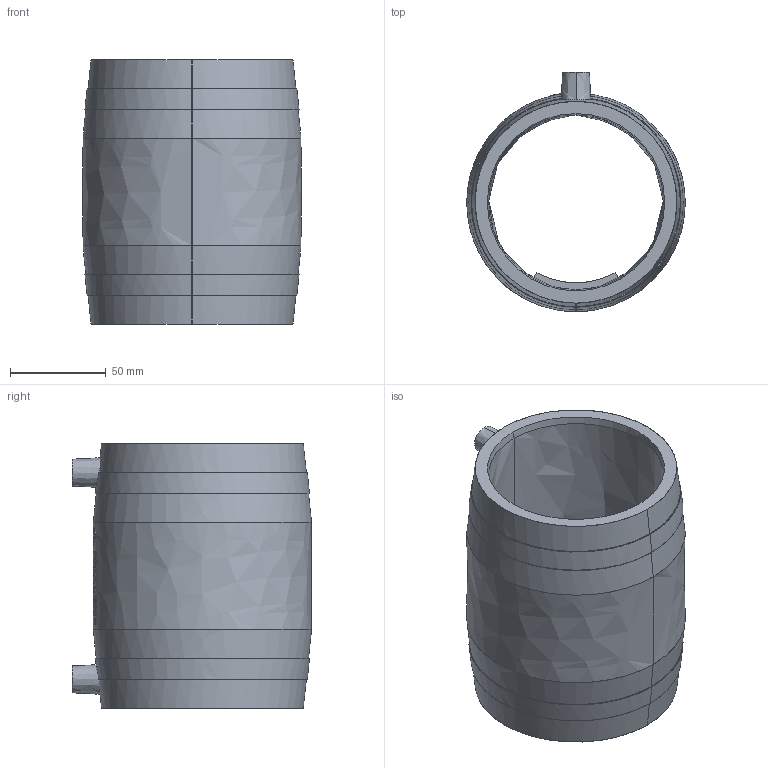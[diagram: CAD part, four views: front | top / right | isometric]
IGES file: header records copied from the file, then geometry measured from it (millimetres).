
Start section:  PTC IGES file: mb_d090_01.igs
Global section: file name: mb_d090_01.igs; native system: Pro/ENGINEER by Parametric Technology Corporation; preprocessor: 2011490; author: mtunjic; organization: Unknown; date: 20130805.164203; units: millimetre
Bounding box: 114 x 124.88 x 138 mm (x, y, z)
Surface area: 94599.4 mm2 (no closed solid volume)
Topology: 0 solids, 0 shells, 164 faces, 846 edges, 846 vertices
Faces by surface type: bspline 164
